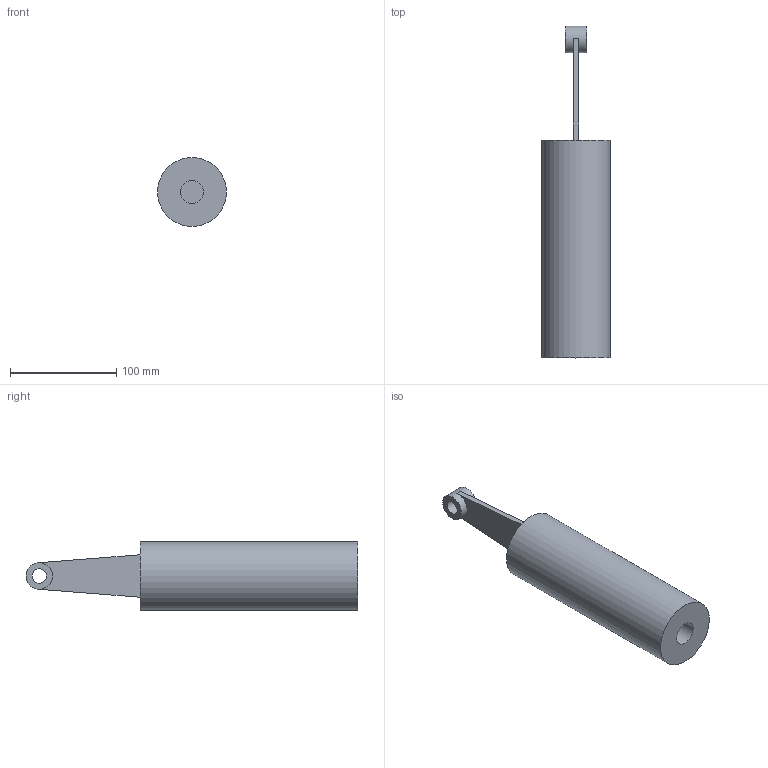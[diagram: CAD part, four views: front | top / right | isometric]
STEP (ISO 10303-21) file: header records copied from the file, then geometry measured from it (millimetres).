
FILE_DESCRIPTION(/* description */ (''),/* implementation_level */ '2;1');
FILE_NAME(/* name */ 'verrin.stp',/* time_stamp */ '2026-09-21T15:08:10+02:00',/* author */ (''),/* organization */ (''),/* preprocessor_version */ 'ST-DEVELOPER v20',/* originating_system */ 'SIEMENS PLM Software NX2406.4001',/* authorisation */ '');
FILE_SCHEMA (('AUTOMOTIVE_DESIGN { 1 0 10303 214 3 1 1 1 }'));
Length unit declared in the file: millimetre
Products named in the file (1): verrin
Bounding box: 65 x 312.5 x 65 mm (x, y, z)
Volume: 634843.6 mm3; surface area: 70331.9 mm2
Topology: 2 solids, 2 shells, 14 faces, 24 edges, 16 vertices
Faces by surface type: plane 10, cylinder 4
Full cylindrical faces by diameter (mm): 13.5 x1, 22 x1, 25 x1, 65 x1
Entity records: 351 total; most frequent: DIRECTION 60, CARTESIAN_POINT 51, ORIENTED_EDGE 40, AXIS2_PLACEMENT_3D 25, EDGE_LOOP 22, EDGE_CURVE 20, VERTEX_POINT 16, FACE_BOUND 15
